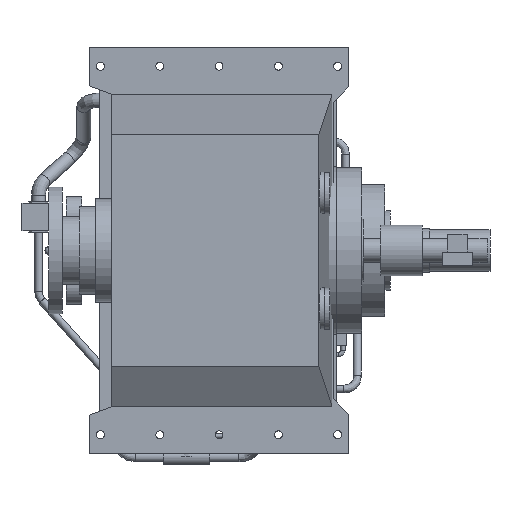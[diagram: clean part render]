
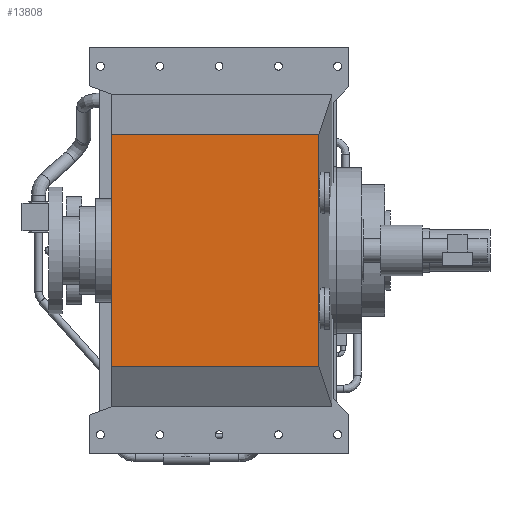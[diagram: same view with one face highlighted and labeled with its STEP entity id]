
A CAD part, front view. The second image highlights one B-rep face of the part: STEP entity #13808.
In plain terms, the highlighted planar face has unit normal (0, -1, 0).
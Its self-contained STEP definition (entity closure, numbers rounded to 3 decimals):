
#9773=LINE('',#24218,#10707);
#9776=LINE('',#24224,#10710);
#9779=LINE('',#24230,#10713);
#9782=LINE('',#24236,#10716);
#10707=VECTOR('',#19954,1.);
#10710=VECTOR('',#19959,1.);
#10713=VECTOR('',#19964,1.);
#10716=VECTOR('',#19971,1.);
#13808=ADVANCED_FACE('',(#14549),#14215,.T.);
#14215=PLANE('',#18787);
#14549=FACE_OUTER_BOUND('',#15050,.T.);
#15050=EDGE_LOOP('',(#15962,#15963,#15964,#15965));
#15962=ORIENTED_EDGE('',*,*,#17784,.F.);
#15963=ORIENTED_EDGE('',*,*,#17781,.T.);
#15964=ORIENTED_EDGE('',*,*,#17790,.T.);
#15965=ORIENTED_EDGE('',*,*,#17787,.F.);
#17155=VERTEX_POINT('',#24217);
#17156=VERTEX_POINT('',#24219);
#17158=VERTEX_POINT('',#24225);
#17160=VERTEX_POINT('',#24231);
#17781=EDGE_CURVE('',#17156,#17155,#9773,.T.);
#17784=EDGE_CURVE('',#17156,#17158,#9776,.T.);
#17787=EDGE_CURVE('',#17158,#17160,#9779,.T.);
#17790=EDGE_CURVE('',#17155,#17160,#9782,.T.);
#18787=AXIS2_PLACEMENT_3D('',#24237,#19972,#19973);
#19954=DIRECTION('',(1.,0.,0.));
#19959=DIRECTION('',(0.,0.,1.));
#19964=DIRECTION('',(1.,0.,0.));
#19971=DIRECTION('',(0.,0.,1.));
#19972=DIRECTION('',(0.,-1.,0.));
#19973=DIRECTION('',(0.,0.,-1.));
#24217=CARTESIAN_POINT('',(1456.778,-1328.462,-499.));
#24218=CARTESIAN_POINT('',(-30.222,-1328.462,-499.));
#24219=CARTESIAN_POINT('',(-30.222,-1328.462,-499.));
#24224=CARTESIAN_POINT('',(-30.222,-1328.462,-13249.325));
#24225=CARTESIAN_POINT('',(-30.222,-1328.462,827.));
#24230=CARTESIAN_POINT('',(-30.222,-1328.462,827.));
#24231=CARTESIAN_POINT('',(1456.778,-1328.462,827.));
#24236=CARTESIAN_POINT('',(1456.778,-1328.462,-13249.325));
#24237=CARTESIAN_POINT('',(-30.222,-1328.462,-13249.325));
